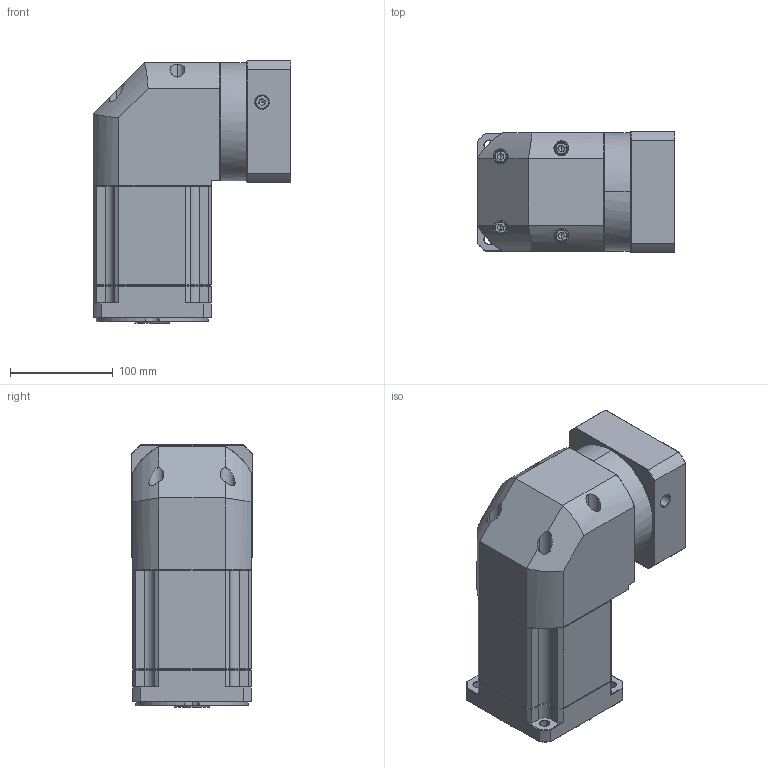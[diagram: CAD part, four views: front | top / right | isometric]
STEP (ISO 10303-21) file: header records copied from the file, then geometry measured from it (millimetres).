
FILE_DESCRIPTION (( 'STEP AP214' ), '1' );
FILE_NAME ('ZBR115A-K25-L3-P2-19-95-115-M8.step', '2023-08-26T12:45:38', ( '' ), ( '' ), 'SwSTEP 2.0', 'SolidWorks 2016', '' );
FILE_SCHEMA (( 'AUTOMOTIVE_DESIGN' ));
Length unit declared in the file: millimetre
Products named in the file (1): ZBR115A-K25-L3-P2-19-95-115-M8
Bounding box: 192.4 x 118 x 255 mm (x, y, z)
Volume: 3576628.3 mm3; surface area: 268649.5 mm2
Topology: 6 solids, 6 shells, 2323 faces, 6099 edges, 3880 vertices
Faces by surface type: plane 1132, bspline 415, cylinder 406, cone 362, torus 8
Entity records: 122692 total; most frequent: CARTESIAN_POINT 43242, ORIENTED_EDGE 12142, DIRECTION 9615, EDGE_CURVE 6071, LINE 3937, VECTOR 3937, VERTEX_POINT 3880, AXIS2_PLACEMENT_3D 2839
